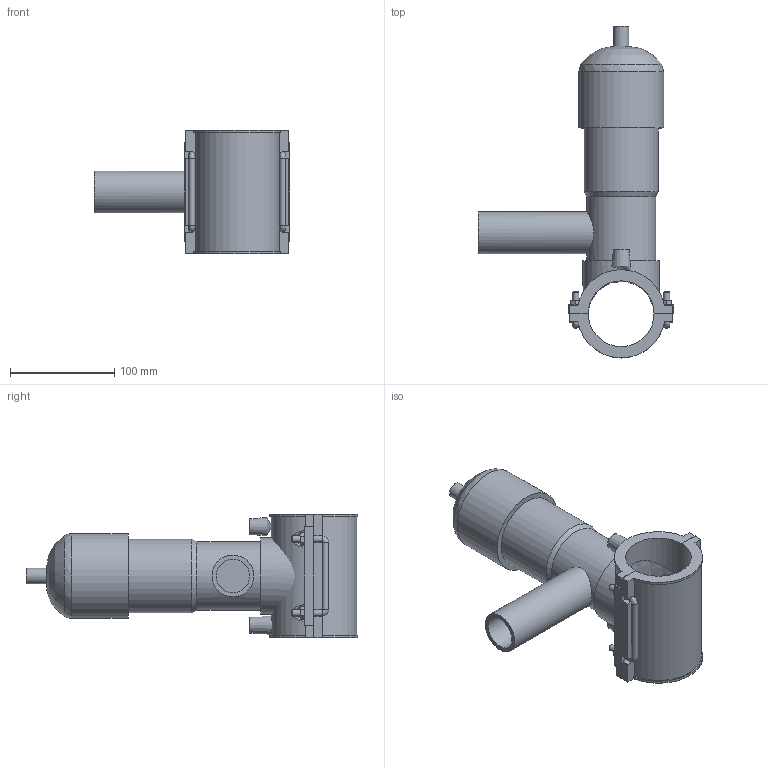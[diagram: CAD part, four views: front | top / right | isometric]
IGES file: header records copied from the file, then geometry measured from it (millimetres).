
Global section: file name: 495404063040.ipt; native system: Autodesk Inventor 2015; preprocessor: unknown; author: KIM; date: 20171106.094235; units: millimetre
Bounding box: 187.5 x 317.68 x 118 mm (x, y, z)
Volume: 1261432.6 mm3; surface area: 173660 mm2
Topology: 2 solids, 3 shells, 143 faces, 357 edges, 225 vertices
Faces by surface type: plane 91, cylinder 25, revolution 12, bspline 8, cone 7
Full cylindrical faces by diameter (mm): 4 x2, 6 x10, 14.64 x1, 40 x1, 65.88 x1, 70.76 x1, 73.2 x1, 81.333 x1
